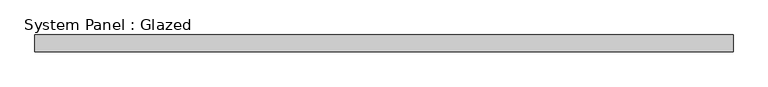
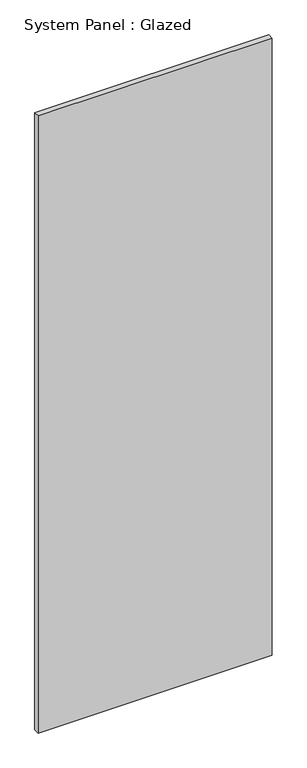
"""IFC4 building model written with IfcOpenShell, lengths in millimetres: plate geometry, System Panel : Glazed."""

import ifcopenshell
import ifcopenshell.guid

model = None  # the IFC model being written
_history = None  # IfcOwnerHistory: only IFC2X3 demands one
_inside = {}  # id of a spatial element -> (the spatial element, [elements in it])
_under = {}  # id of a project, library or spatial element -> (it, [spatial elements below it])
_declared = {}  # id of a project -> (the project, [libraries it declares])
_typed = {}  # id of a type object -> (the type object, [elements of that type])
_made_of = {}  # id of a material, layer set ... -> (it, [elements and type objects made of it])


def new_model(schema):
    """Start an empty IFC model of exactly this schema.

    Asked for "IFC4X3", IfcOpenShell would pick the latest addendum, in which some entities
    have other attributes; the version numbers below select the first issue.
    IFC2X3 requires an IfcOwnerHistory on every rooted entity: one is made here for all.
    """
    global model, _history
    if schema == "IFC4X3":
        model = ifcopenshell.file(schema_version=(4, 3, 0, 0))
    else:
        model = ifcopenshell.file(schema=schema)
    _inside.clear()
    _under.clear()
    _declared.clear()
    _typed.clear()
    _made_of.clear()
    _history = None
    if model.schema == "IFC2X3":
        org = make("IfcOrganization", Name="unknown")
        user = make(
            "IfcPersonAndOrganization",
            ThePerson=make("IfcPerson", FamilyName="unknown"),
            TheOrganization=org,
        )
        app = make(
            "IfcApplication",
            ApplicationDeveloper=org,
            Version="unknown",
            ApplicationFullName="unknown",
            ApplicationIdentifier="unknown",
        )
        _history = make(
            "IfcOwnerHistory",
            OwningUser=user,
            OwningApplication=app,
            ChangeAction="ADDED",
            CreationDate=0,
        )
    return model


def make(cls, **values):
    """One entity of the class cls with the attributes given. An attribute that is None is left unset."""
    return model.create_entity(
        cls, **{name: value for name, value in values.items() if value is not None}
    )


def rooted(cls, **values):
    """An entity with a GlobalId (a new one), such as an element, a storey or a relation."""
    return make(cls, GlobalId=ifcopenshell.guid.new(), OwnerHistory=_history, **values)


def si_unit(unit_type, name, prefix=None):
    """IfcSIUnit, for example si_unit("LENGTHUNIT", "METRE", prefix="MILLI")."""
    return make("IfcSIUnit", UnitType=unit_type, Prefix=prefix, Name=name)


def assignment(units):
    """IfcUnitAssignment: the units of a project."""
    return None if units is None else make("IfcUnitAssignment", Units=units)


def point(xyz):
    """IfcCartesianPoint."""
    return None if xyz is None else make("IfcCartesianPoint", Coordinates=xyz)


def direction(xyz):
    """IfcDirection."""
    return None if xyz is None else make("IfcDirection", DirectionRatios=xyz)


def frame(location, z_axis=None, x_axis=None):
    """IfcAxis2Placement3D, a coordinate frame: its origin and axes. An axis left out is left unset."""
    return make(
        "IfcAxis2Placement3D",
        Location=point(location),
        Axis=direction(z_axis),
        RefDirection=direction(x_axis),
    )


def origin():
    """The frame at (0, 0, 0) with its axes left unset."""
    return frame((0.0, 0.0, 0.0))


def origin_with_axes():
    """The frame at (0, 0, 0) with the z axis (0, 0, 1) and the x axis (1, 0, 0) written out."""
    return frame((0.0, 0.0, 0.0), z_axis=(0.0, 0.0, 1.0), x_axis=(1.0, 0.0, 0.0))


def place(relative_to, where):
    """IfcLocalPlacement: puts the frame where relative to a parent placement (None: the world)."""
    return make(
        "IfcLocalPlacement", PlacementRelTo=relative_to, RelativePlacement=where
    )


def context(
    kind, dimensions, precision=None, world=None, true_north=None, identifier=None
):
    """IfcGeometricRepresentationContext, for example the 3D "Model" context."""
    return make(
        "IfcGeometricRepresentationContext",
        ContextIdentifier=identifier,
        ContextType=kind,
        CoordinateSpaceDimension=dimensions,
        Precision=precision,
        WorldCoordinateSystem=world,
        TrueNorth=true_north,
    )


def project(units=None, contexts=None):
    """IfcProject with its units and contexts."""
    return rooted(
        "IfcProject",
        Name="project",
        RepresentationContexts=contexts,
        UnitsInContext=assignment(units),
    )


def spatial(cls, under=None, at=None, **own):
    """A site, building, storey or space (cls), placed at a placement, below another one or the project."""
    s = rooted(cls, ObjectPlacement=at, **own)
    if under is not None:
        _under.setdefault(under.id(), (under, []))[1].append(s)
    return s


def polyline(points):
    """IfcPolyline through the points."""
    return make("IfcPolyline", Points=[point(p) for p in points])


def outline(outer, holes=None, kind="AREA"):
    """IfcArbitraryClosedProfileDef: a profile drawn as a closed curve; with holes, ...WithVoids."""
    if holes is None:
        return make("IfcArbitraryClosedProfileDef", ProfileType=kind, OuterCurve=outer)
    return make(
        "IfcArbitraryProfileDefWithVoids",
        ProfileType=kind,
        OuterCurve=outer,
        InnerCurves=holes,
    )


def extrude(swept, where, along, depth):
    """IfcExtrudedAreaSolid: the profile swept, set in the frame where, extruded along a direction by depth."""
    return make(
        "IfcExtrudedAreaSolid",
        SweptArea=swept,
        Position=where,
        ExtrudedDirection=direction(along),
        Depth=depth,
    )


def shape(context_of_items, identifier, shape_type, items):
    """IfcShapeRepresentation: the items that make up one representation, for example the "Body"."""
    return make(
        "IfcShapeRepresentation",
        ContextOfItems=context_of_items,
        RepresentationIdentifier=identifier,
        RepresentationType=shape_type,
        Items=items,
    )


def source(mapping_origin, context_of_items, identifier, shape_type, items):
    """IfcRepresentationMap: a shape defined once, which mapped items show again and again."""
    return make(
        "IfcRepresentationMap",
        MappingOrigin=mapping_origin,
        MappedRepresentation=shape(context_of_items, identifier, shape_type, items),
    )


def transform(
    local_origin,
    x_axis=None,
    y_axis=None,
    z_axis=None,
    scale=None,
    scale2=None,
    scale3=None,
    uniform=True,
):
    """IfcCartesianTransformationOperator3D, or its non-uniform kind. x_axis, y_axis, z_axis: its Axis1, 2, 3."""
    if uniform:
        return make(
            "IfcCartesianTransformationOperator3D",
            Axis1=direction(x_axis),
            Axis2=direction(y_axis),
            LocalOrigin=point(local_origin),
            Scale=scale,
            Axis3=direction(z_axis),
        )
    return make(
        "IfcCartesianTransformationOperator3DnonUniform",
        Axis1=direction(x_axis),
        Axis2=direction(y_axis),
        LocalOrigin=point(local_origin),
        Scale=scale,
        Axis3=direction(z_axis),
        Scale2=scale2,
        Scale3=scale3,
    )


def mapped(mapping_source, mapping_target):
    """IfcMappedItem: shows the shape of a source again, moved by a transform."""
    return make(
        "IfcMappedItem", MappingSource=mapping_source, MappingTarget=mapping_target
    )


def made_of(thing, what):
    """Note that an element or type object is made of a material, layer set ...; save() writes the relation."""
    if what is not None:
        _made_of.setdefault(what.id(), (what, []))[1].append(thing)
    return thing


def element(
    cls,
    number,
    at=None,
    inside=None,
    cuts=None,
    type_object=None,
    material=None,
    context=None,
    identifier="Body",
    shape_type=None,
    held_by="IfcProductDefinitionShape",
    body=None,
    shapes=None,
    **own,
):
    """One element of the class cls, such as IfcWall. Its Tag is "e" and its number.

    at: its placement. inside: the storey or other place that contains it. cuts: it is an
    opening in that element (IfcRelVoidsElement). A single representation is given by context,
    identifier, shape_type and body (its items); several are given by shapes. held_by: the class
    of the entity that holds the representations. save() writes the other relations.
    """
    e = rooted(cls, Tag="e%d" % number, ObjectPlacement=at, **own)
    if body is not None:
        shapes = [shape(context, identifier, shape_type, body)]
    if shapes is not None:
        e.Representation = make(held_by, Representations=shapes)
    if inside is not None:
        _inside.setdefault(inside.id(), (inside, []))[1].append(e)
    if cuts is not None:
        rooted(
            "IfcRelVoidsElement", RelatingBuildingElement=cuts, RelatedOpeningElement=e
        )
    if type_object is not None:
        _typed.setdefault(type_object.id(), (type_object, []))[1].append(e)
    return made_of(e, material)


def aggregate(whole, parts):
    """IfcRelAggregates: a whole, such as a stair, and the parts it consists of."""
    return rooted("IfcRelAggregates", RelatingObject=whole, RelatedObjects=parts)


def save(model, path):
    """Write the relations noted so far, then the file.

    IfcRelAggregates (storeys below a building ...), IfcRelContainedInSpatialStructure (elements
    in a storey), IfcRelDefinesByType, IfcRelAssociatesMaterial and IfcRelDeclares: one each for
    every whole, place, type object, material and project.
    """
    for whole, parts in _under.values():
        aggregate(whole, parts)
    for where, things in _inside.values():
        rooted(
            "IfcRelContainedInSpatialStructure",
            RelatedElements=things,
            RelatingStructure=where,
        )
    for kind, things in _typed.values():
        rooted("IfcRelDefinesByType", RelatedObjects=things, RelatingType=kind)
    for what, things in _made_of.values():
        rooted("IfcRelAssociatesMaterial", RelatedObjects=things, RelatingMaterial=what)
    for by, libraries in _declared.values():
        rooted("IfcRelDeclares", RelatingContext=by, RelatedDefinitions=libraries)
    model.write(path)


def system_panel_glazed_53fe5bbb(model_context):
    return source(origin(), model_context, "Body", "SweptSolid", [
        extrude(outline(polyline([(525.0, -49.5), (-525.0, -49.5), (-525.0, -24.5), (525.0, -24.5), (525.0, -49.5)])), origin_with_axes(), (0.0, 0.0, 1.0), 2925.0),
    ])


if __name__ == "__main__":
    model = new_model("IFC4")
    model_context = context("Model", 3, world=origin())
    ifc_project = project(units=[si_unit("LENGTHUNIT", "METRE", prefix="MILLI")], contexts=[model_context])
    site = spatial("IfcSite", under=ifc_project)
    building = spatial("IfcBuilding", under=site)
    placement = place(None, origin())
    system_panel_glazed_shape = system_panel_glazed_53fe5bbb(model_context)
    element("IfcPlate", 1, ObjectType="System Panel : Glazed", at=placement, inside=building, context=model_context, shape_type="MappedRepresentation", body=[
        mapped(system_panel_glazed_shape, transform((0.0, 0.0, 0.0), x_axis=(1.0, 0.0, 0.0), y_axis=(0.0, 1.0, 0.0), z_axis=(0.0, 0.0, 1.0))),
    ])
    save(model, "model.ifc")
